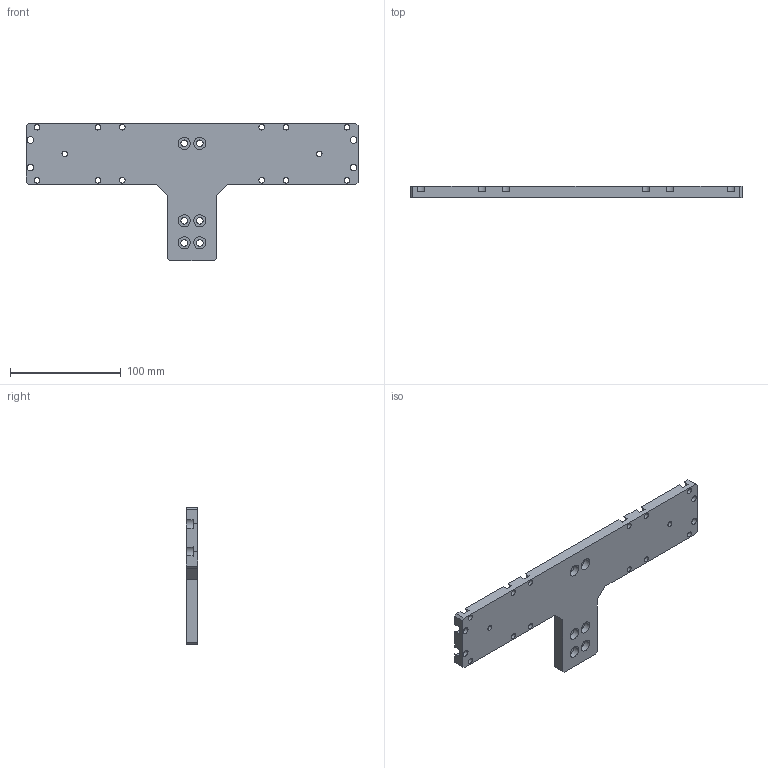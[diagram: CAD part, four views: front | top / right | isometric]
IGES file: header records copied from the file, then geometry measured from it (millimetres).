
Start section:  PTC IGES file: k46-k60l-st.igs
Global section: file name: k46-k60l-st.igs; native system: Pro/ENGINEER by Parametric Technology Corporation; preprocessor: 2008230; author: Owner; organization: Unknown; date: 20121211.145110; units: millimetre
Bounding box: 300 x 10 x 124 mm (x, y, z)
Surface area: 51252 mm2 (no closed solid volume)
Topology: 0 solids, 0 shells, 122 faces, 672 edges, 672 vertices
Faces by surface type: revolution 80, bspline 42
